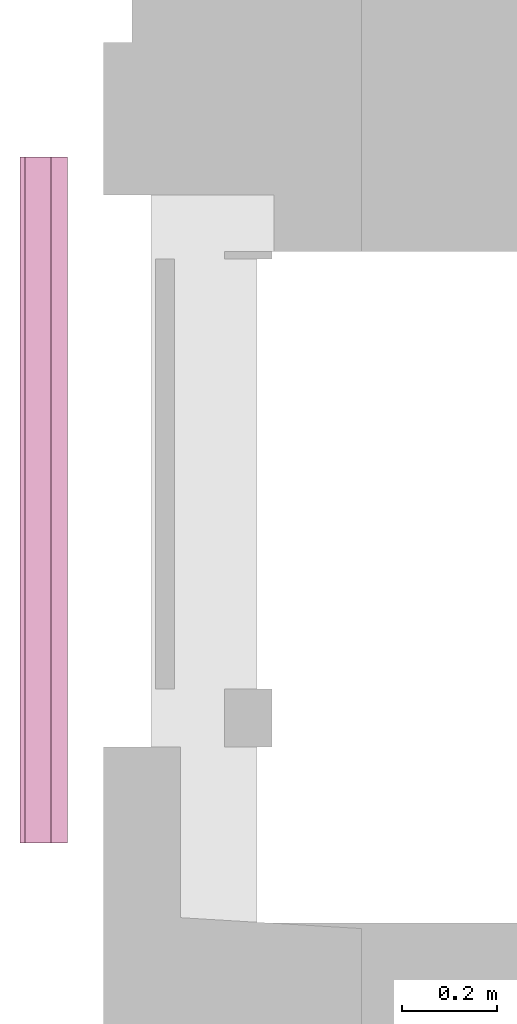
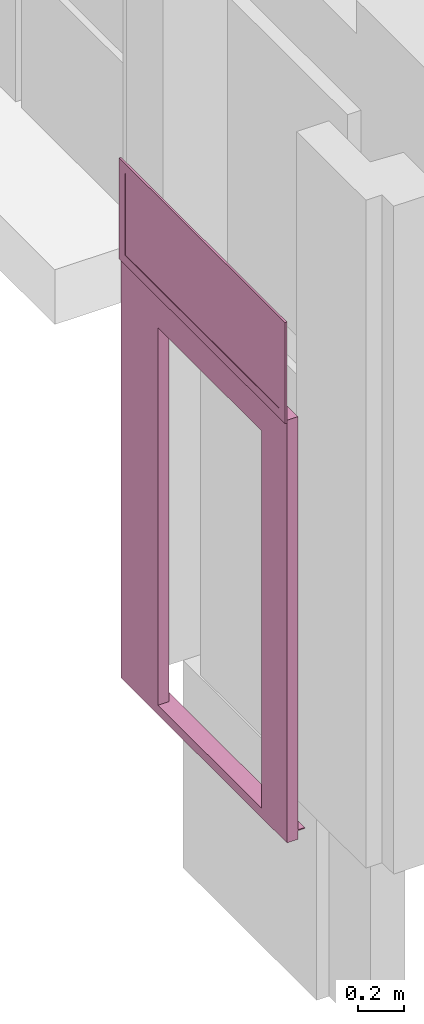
# One storey, part 46 of 46: 2 transport elements.
"""IFC2X3 building model written with IfcOpenShell, lengths in millimetres."""

import ifcopenshell
import ifcopenshell.guid

model = None  # the IFC model being written
_history = None  # IfcOwnerHistory: only IFC2X3 demands one
_inside = {}  # id of a spatial element -> (the spatial element, [elements in it])
_under = {}  # id of a project, library or spatial element -> (it, [spatial elements below it])
_declared = {}  # id of a project -> (the project, [libraries it declares])
_typed = {}  # id of a type object -> (the type object, [elements of that type])
_made_of = {}  # id of a material, layer set ... -> (it, [elements and type objects made of it])


def new_model(schema):
    """Start an empty IFC model of exactly this schema.

    Asked for "IFC4X3", IfcOpenShell would pick the latest addendum, in which some entities
    have other attributes; the version numbers below select the first issue.
    IFC2X3 requires an IfcOwnerHistory on every rooted entity: one is made here for all.
    """
    global model, _history
    if schema == "IFC4X3":
        model = ifcopenshell.file(schema_version=(4, 3, 0, 0))
    else:
        model = ifcopenshell.file(schema=schema)
    _inside.clear()
    _under.clear()
    _declared.clear()
    _typed.clear()
    _made_of.clear()
    _history = None
    if model.schema == "IFC2X3":
        org = make("IfcOrganization", Name="unknown")
        user = make(
            "IfcPersonAndOrganization",
            ThePerson=make("IfcPerson", FamilyName="unknown"),
            TheOrganization=org,
        )
        app = make(
            "IfcApplication",
            ApplicationDeveloper=org,
            Version="unknown",
            ApplicationFullName="unknown",
            ApplicationIdentifier="unknown",
        )
        _history = make(
            "IfcOwnerHistory",
            OwningUser=user,
            OwningApplication=app,
            ChangeAction="ADDED",
            CreationDate=0,
        )
    return model


def make(cls, **values):
    """One entity of the class cls with the attributes given. An attribute that is None is left unset."""
    return model.create_entity(
        cls, **{name: value for name, value in values.items() if value is not None}
    )


def entity(cls, *values):
    """Any entity or typed value of the class cls, its attributes in the order of the schema. None: left unset."""
    e = model.create_entity(cls)
    for i, value in enumerate(values):
        if value is not None:
            e[i] = value
    return e


def rooted(cls, **values):
    """An entity with a GlobalId (a new one), such as an element, a storey or a relation."""
    return make(cls, GlobalId=ifcopenshell.guid.new(), OwnerHistory=_history, **values)


def si_unit(unit_type, name, prefix=None):
    """IfcSIUnit, for example si_unit("LENGTHUNIT", "METRE", prefix="MILLI")."""
    return make("IfcSIUnit", UnitType=unit_type, Prefix=prefix, Name=name)


def converted_unit(unit_type, name, factor, base, dimensions=None, offset=None):
    """IfcConversionBasedUnit, such as the inch: factor (a typed value) times the base unit."""
    return make(
        "IfcConversionBasedUnit"
        if offset is None
        else "IfcConversionBasedUnitWithOffset",
        ConversionOffset=offset,
        Dimensions=None
        if dimensions is None
        else entity("IfcDimensionalExponents", *dimensions),
        UnitType=unit_type,
        Name=name,
        ConversionFactor=make(
            "IfcMeasureWithUnit", ValueComponent=factor, UnitComponent=base
        ),
    )


def derived_unit(unit_type, elements):
    """IfcDerivedUnit: a product of units, each with its exponent."""
    return make(
        "IfcDerivedUnit",
        Elements=[
            make("IfcDerivedUnitElement", Unit=unit, Exponent=power)
            for unit, power in elements
        ],
        UnitType=unit_type,
    )


def assignment(units):
    """IfcUnitAssignment: the units of a project."""
    return None if units is None else make("IfcUnitAssignment", Units=units)


def point(xyz):
    """IfcCartesianPoint."""
    return None if xyz is None else make("IfcCartesianPoint", Coordinates=xyz)


def direction(xyz):
    """IfcDirection."""
    return None if xyz is None else make("IfcDirection", DirectionRatios=xyz)


def frame(location, z_axis=None, x_axis=None):
    """IfcAxis2Placement3D, a coordinate frame: its origin and axes. An axis left out is left unset."""
    return make(
        "IfcAxis2Placement3D",
        Location=point(location),
        Axis=direction(z_axis),
        RefDirection=direction(x_axis),
    )


def frame_2d(location, x_axis=None):
    """IfcAxis2Placement2D, a coordinate frame in the plane: its origin and x axis."""
    return make(
        "IfcAxis2Placement2D", Location=point(location), RefDirection=direction(x_axis)
    )


def origin():
    """The frame at (0, 0, 0) with its axes left unset."""
    return frame((0.0, 0.0, 0.0))


def origin_2d_with_axis():
    """The frame at (0, 0) in the plane with the x axis (1, 0) written out."""
    return frame_2d((0.0, 0.0), x_axis=(1.0, 0.0))


def place(relative_to, where):
    """IfcLocalPlacement: puts the frame where relative to a parent placement (None: the world)."""
    return make(
        "IfcLocalPlacement", PlacementRelTo=relative_to, RelativePlacement=where
    )


def context(
    kind, dimensions, precision=None, world=None, true_north=None, identifier=None
):
    """IfcGeometricRepresentationContext, for example the 3D "Model" context."""
    return make(
        "IfcGeometricRepresentationContext",
        ContextIdentifier=identifier,
        ContextType=kind,
        CoordinateSpaceDimension=dimensions,
        Precision=precision,
        WorldCoordinateSystem=world,
        TrueNorth=true_north,
    )


def subcontext(parent, identifier, kind, view, scale=None):
    """IfcGeometricRepresentationSubContext, for example "Body" below "Model"."""
    return make(
        "IfcGeometricRepresentationSubContext",
        ContextIdentifier=identifier,
        ContextType=kind,
        ParentContext=parent,
        TargetScale=scale,
        TargetView=view,
    )


def project(units=None, contexts=None):
    """IfcProject with its units and contexts."""
    return rooted(
        "IfcProject",
        Name="project",
        RepresentationContexts=contexts,
        UnitsInContext=assignment(units),
    )


def spatial(cls, under=None, at=None, **own):
    """A site, building, storey or space (cls), placed at a placement, below another one or the project."""
    s = rooted(cls, ObjectPlacement=at, **own)
    if under is not None:
        _under.setdefault(under.id(), (under, []))[1].append(s)
    return s


def polyline(points):
    """IfcPolyline through the points."""
    return make("IfcPolyline", Points=[point(p) for p in points])


def profile(cls, at=None, kind="AREA", **sizes):
    """A parametric profile (cls). Its sizes go by their IFC names, for example OverallWidth=200.0."""
    return make(cls, ProfileType=kind, Position=at, **sizes)


def rectangle(**sizes):
    """IfcRectangleProfileDef."""
    return profile("IfcRectangleProfileDef", **sizes)


def outline(outer, holes=None, kind="AREA"):
    """IfcArbitraryClosedProfileDef: a profile drawn as a closed curve; with holes, ...WithVoids."""
    if holes is None:
        return make("IfcArbitraryClosedProfileDef", ProfileType=kind, OuterCurve=outer)
    return make(
        "IfcArbitraryProfileDefWithVoids",
        ProfileType=kind,
        OuterCurve=outer,
        InnerCurves=holes,
    )


def extrude(swept, where, along, depth):
    """IfcExtrudedAreaSolid: the profile swept, set in the frame where, extruded along a direction by depth."""
    return make(
        "IfcExtrudedAreaSolid",
        SweptArea=swept,
        Position=where,
        ExtrudedDirection=direction(along),
        Depth=depth,
    )


def shape(context_of_items, identifier, shape_type, items):
    """IfcShapeRepresentation: the items that make up one representation, for example the "Body"."""
    return make(
        "IfcShapeRepresentation",
        ContextOfItems=context_of_items,
        RepresentationIdentifier=identifier,
        RepresentationType=shape_type,
        Items=items,
    )


def source(mapping_origin, context_of_items, identifier, shape_type, items):
    """IfcRepresentationMap: a shape defined once, which mapped items show again and again."""
    return make(
        "IfcRepresentationMap",
        MappingOrigin=mapping_origin,
        MappedRepresentation=shape(context_of_items, identifier, shape_type, items),
    )


def transform(
    local_origin,
    x_axis=None,
    y_axis=None,
    z_axis=None,
    scale=None,
    scale2=None,
    scale3=None,
    uniform=True,
):
    """IfcCartesianTransformationOperator3D, or its non-uniform kind. x_axis, y_axis, z_axis: its Axis1, 2, 3."""
    if uniform:
        return make(
            "IfcCartesianTransformationOperator3D",
            Axis1=direction(x_axis),
            Axis2=direction(y_axis),
            LocalOrigin=point(local_origin),
            Scale=scale,
            Axis3=direction(z_axis),
        )
    return make(
        "IfcCartesianTransformationOperator3DnonUniform",
        Axis1=direction(x_axis),
        Axis2=direction(y_axis),
        LocalOrigin=point(local_origin),
        Scale=scale,
        Axis3=direction(z_axis),
        Scale2=scale2,
        Scale3=scale3,
    )


def mapped(mapping_source, mapping_target):
    """IfcMappedItem: shows the shape of a source again, moved by a transform."""
    return make(
        "IfcMappedItem", MappingSource=mapping_source, MappingTarget=mapping_target
    )


def material(Name=None, Category=None):
    """IfcMaterial."""
    return make("IfcMaterial", Name=Name, Category=Category)


def material_list(materials):
    """IfcMaterialList."""
    return make("IfcMaterialList", Materials=materials)


def made_of(thing, what):
    """Note that an element or type object is made of a material, layer set ...; save() writes the relation."""
    if what is not None:
        _made_of.setdefault(what.id(), (what, []))[1].append(thing)
    return thing


def type_object(cls, material=None, **own):
    """A type object (cls), such as IfcWallType, which elements share."""
    return made_of(rooted(cls, **own), material)


def type_shapes(of_type, sources):
    """Give a type object the sources (RepresentationMaps) that its elements show as mapped items."""
    of_type.RepresentationMaps = sources


def element(
    cls,
    number,
    at=None,
    inside=None,
    cuts=None,
    type_object=None,
    material=None,
    context=None,
    identifier="Body",
    shape_type=None,
    held_by="IfcProductDefinitionShape",
    body=None,
    shapes=None,
    **own,
):
    """One element of the class cls, such as IfcWall. Its Tag is "e" and its number.

    at: its placement. inside: the storey or other place that contains it. cuts: it is an
    opening in that element (IfcRelVoidsElement). A single representation is given by context,
    identifier, shape_type and body (its items); several are given by shapes. held_by: the class
    of the entity that holds the representations. save() writes the other relations.
    """
    e = rooted(cls, Tag="e%d" % number, ObjectPlacement=at, **own)
    if body is not None:
        shapes = [shape(context, identifier, shape_type, body)]
    if shapes is not None:
        e.Representation = make(held_by, Representations=shapes)
    if inside is not None:
        _inside.setdefault(inside.id(), (inside, []))[1].append(e)
    if cuts is not None:
        rooted(
            "IfcRelVoidsElement", RelatingBuildingElement=cuts, RelatedOpeningElement=e
        )
    if type_object is not None:
        _typed.setdefault(type_object.id(), (type_object, []))[1].append(e)
    return made_of(e, material)


def aggregate(whole, parts):
    """IfcRelAggregates: a whole, such as a stair, and the parts it consists of."""
    return rooted("IfcRelAggregates", RelatingObject=whole, RelatedObjects=parts)


def save(model, path):
    """Write the relations noted so far, then the file.

    IfcRelAggregates (storeys below a building ...), IfcRelContainedInSpatialStructure (elements
    in a storey), IfcRelDefinesByType, IfcRelAssociatesMaterial and IfcRelDeclares: one each for
    every whole, place, type object, material and project.
    """
    for whole, parts in _under.values():
        aggregate(whole, parts)
    for where, things in _inside.values():
        rooted(
            "IfcRelContainedInSpatialStructure",
            RelatedElements=things,
            RelatingStructure=where,
        )
    for kind, things in _typed.values():
        rooted("IfcRelDefinesByType", RelatedObjects=things, RelatingType=kind)
    for what, things in _made_of.values():
        rooted("IfcRelAssociatesMaterial", RelatedObjects=things, RelatingMaterial=what)
    for by, libraries in _declared.values():
        rooted("IfcRelDeclares", RelatingContext=by, RelatedDefinitions=libraries)
    model.write(path)


model = new_model("IFC2X3")

# Units and contexts
model_context = context("Model", 3, precision=0.01, world=origin(), true_north=direction((6.12303176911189e-17, 1.0)))
body_context = subcontext(model_context, "Body", "Model", "MODEL_VIEW")
ifc_project = project(units=[si_unit("LENGTHUNIT", "METRE", prefix="MILLI"), si_unit("AREAUNIT", "SQUARE_METRE"), si_unit("VOLUMEUNIT", "CUBIC_METRE"), converted_unit("PLANEANGLEUNIT", "DEGREE", entity("IfcRatioMeasure", 0.0174532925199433), si_unit("PLANEANGLEUNIT", "RADIAN"), dimensions=[0, 0, 0, 0, 0, 0, 0]), si_unit("MASSUNIT", "GRAM", prefix="KILO"), derived_unit("MASSDENSITYUNIT", [(si_unit("MASSUNIT", "GRAM", prefix="KILO"), 1), (si_unit("LENGTHUNIT", "METRE"), -3)]), si_unit("TIMEUNIT", "SECOND"), si_unit("FREQUENCYUNIT", "HERTZ"), si_unit("THERMODYNAMICTEMPERATUREUNIT", "DEGREE_CELSIUS"), derived_unit("THERMALTRANSMITTANCEUNIT", [(si_unit("MASSUNIT", "GRAM", prefix="KILO"), 1), (si_unit("THERMODYNAMICTEMPERATUREUNIT", "KELVIN"), -1), (si_unit("TIMEUNIT", "SECOND"), -3)]), derived_unit("VOLUMETRICFLOWRATEUNIT", [(si_unit("LENGTHUNIT", "METRE"), 3), (si_unit("TIMEUNIT", "SECOND"), -1)]), si_unit("ELECTRICCURRENTUNIT", "AMPERE"), si_unit("ELECTRICVOLTAGEUNIT", "VOLT"), si_unit("POWERUNIT", "WATT"), si_unit("FORCEUNIT", "NEWTON", prefix="KILO"), si_unit("ILLUMINANCEUNIT", "LUX"), si_unit("LUMINOUSFLUXUNIT", "LUMEN"), si_unit("LUMINOUSINTENSITYUNIT", "CANDELA"), derived_unit("USERDEFINED", [(si_unit("MASSUNIT", "GRAM", prefix="KILO"), -1), (si_unit("LENGTHUNIT", "METRE"), -2), (si_unit("TIMEUNIT", "SECOND"), 3), (si_unit("LUMINOUSFLUXUNIT", "LUMEN"), 1)]), derived_unit("LINEARVELOCITYUNIT", [(si_unit("LENGTHUNIT", "METRE"), 1), (si_unit("TIMEUNIT", "SECOND"), -1)]), si_unit("PRESSUREUNIT", "PASCAL"), derived_unit("USERDEFINED", [(si_unit("LENGTHUNIT", "METRE"), -2), (si_unit("MASSUNIT", "GRAM", prefix="KILO"), 1), (si_unit("TIMEUNIT", "SECOND"), -2)])], contexts=[model_context])

# Site, building, storey
site_placement = place(None, frame((-151.875543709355, 2715.0, 0.0)))
site = spatial("IfcSite", under=ifc_project, at=site_placement, Name="Surface", CompositionType="ELEMENT")
building_placement = place(site_placement, origin())
building = spatial("IfcBuilding", under=site, at=building_placement, CompositionType="ELEMENT")
storey_placement = place(building_placement, frame((0.0, 0.0, 10060.0)))
storey = spatial("IfcBuildingStorey", under=building, at=storey_placement, Name="4 korrus", CompositionType="ELEMENT", Elevation=10060.0000000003)

# Transport elements
ifc_material_1 = material(Name="Kalea_RAL_9016")
transport_element_type_1 = type_object("IfcTransportElementType", Name="1100 x 1467 - Left hinged", PredefinedType="NOTDEFINED", material=ifc_material_1)
shared_shape_1 = source(origin(), body_context, "Body", "SweptSolid", [
    extrude(outline(polyline([(-31.6666666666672, -31.6666666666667), (18.3333333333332, -31.6666666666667), (18.3333333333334, 58.3333333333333), (13.3333333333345, 58.3333333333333), (13.3333333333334, -26.6666666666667), (-31.6666666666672, -26.6666666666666), (-31.6666666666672, -31.6666666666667)])), frame((0.0, -31.6666666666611, 31.6666666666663), z_axis=(1.0, 0.0, 0.0), x_axis=(0.0, 0.0, 1.0)), (0.0, 0.0, 1.0), 1440.0),
    extrude(outline(polyline([(-720.0, -1120.0), (720.0, -1120.0), (720.0, 1120.0), (-720.0, 1120.0), (-720.0, -1120.0)]), holes=[polyline([(-500.0, -930.0), (-500.0, 1070.0), (400.0, 1070.0), (400.0, -930.0), (-500.0, -930.0)])]), frame((720.0, -55.0, 1120.0), z_axis=(0.0, 1.0, 0.0), x_axis=(1.0, 0.0, 0.0)), (0.0, 0.0, 1.0), 55.0),
])
type_shapes(transport_element_type_1, [shared_shape_1])
transport_element_1_placement = place(storey_placement, frame((-706.883383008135, 4570.0, -50.0), z_axis=(0.0, 0.0, 1.0), x_axis=(0.0, 1.0, 0.0)))
element("IfcTransportElement", 1, at=transport_element_1_placement, inside=storey, type_object=transport_element_type_1, material=ifc_material_1, Name="A-side_Door_EI60G:1100 x 1467 - Left hinged", ObjectType="1100 x 1467 - Left hinged", CapacityByNumber=0.0, CapacityByWeight=0.0, OperationType="NOTDEFINED", context=body_context, shape_type="MappedRepresentation", body=[
    mapped(shared_shape_1, transform((0.0, 0.0, 0.0), scale=1.0)),
])
ifc_material_2 = material(Name="Kalea_glass")
ifc_material_3 = material(Name="Kalea_glass_black")
ifc_material_list_1 = material_list([ifc_material_2, ifc_material_3, ifc_material_1])
ifc_material_list_2 = material_list([ifc_material_2, ifc_material_3, ifc_material_1])
transport_element_type_2 = type_object("IfcTransportElementType", Name="1100 x 1467 - 536", PredefinedType="NOTDEFINED", material=ifc_material_list_2)
shared_shape_2 = source(origin(), body_context, "Body", "SweptSolid", [
    extrude(rectangle(XDim=4.0, YDim=1020.00000000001, at=origin_2d_with_axis()), frame((880.0, 15.0, 50.0), z_axis=(0.0, 0.0, 1.0), x_axis=(0.0, 1.0, 0.0)), (0.0, 0.0, 1.0), 436.0),
    extrude(rectangle(XDim=4.0, YDim=320.0, at=frame_2d((-2.1094237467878e-15, -1.4210854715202e-14), x_axis=(1.0, 0.0))), frame((210.0, 15.0, 50.0), z_axis=(0.0, 0.0, 1.0), x_axis=(0.0, 1.0, 0.0)), (0.0, 0.0, 1.0), 436.0),
    extrude(outline(polyline([(-720.0, -268.0), (720.0, -268.0), (720.0, 268.0), (-720.0, 268.0), (-720.0, -268.0)]), holes=[polyline([(-670.0, -218.0), (-670.0, 218.0), (670.0, 218.0), (670.0, -218.0), (-670.0, -218.0)])]), frame((720.0, 10.0, 268.0), z_axis=(0.0, 1.0, 0.0), x_axis=(1.0, 0.0, 0.0)), (0.0, 0.0, 1.0), 9.99999999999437),
])
type_shapes(transport_element_type_2, [shared_shape_2])
transport_element_2_placement = place(storey_placement, frame((-726.883383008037, 6010.0, 2175.0), z_axis=(0.0, 0.0, 1.0), x_axis=(0.0, -1.0, 0.0)))
element("IfcTransportElement", 2, at=transport_element_2_placement, inside=storey, type_object=transport_element_type_2, material=ifc_material_list_1, Name="C-side_Glass Panel:1100 x 1467 - 536", ObjectType="1100 x 1467 - 536", CapacityByNumber=0.0, CapacityByWeight=0.0, OperationType="NOTDEFINED", context=body_context, shape_type="MappedRepresentation", body=[
    mapped(shared_shape_2, transform((0.0, 0.0, 0.0), scale=1.0)),
])

save(model, "model.ifc")
